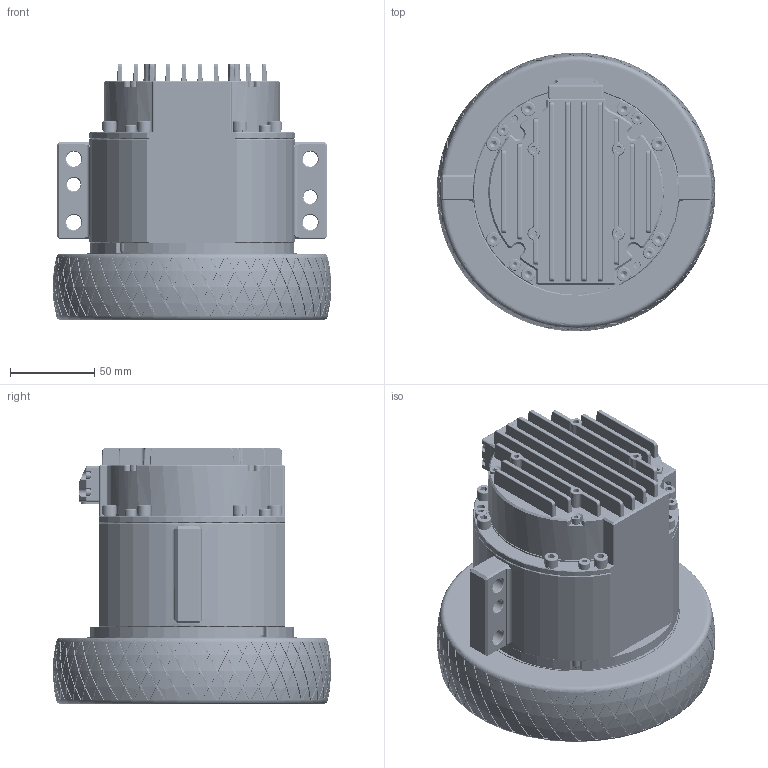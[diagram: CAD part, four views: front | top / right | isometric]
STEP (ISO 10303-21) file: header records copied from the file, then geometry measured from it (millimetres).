
FILE_DESCRIPTION (( 'STEP AP203' ), '1' );
FILE_NAME ('9.7976SS£¨iWMC10409-02222-A165-MBDT- V1.0.STEP', '2022-12-08T01:47:06', ( '' ), ( '' ), 'SwSTEP 2.0', 'SolidWorks 2022', '' );
FILE_SCHEMA (( 'CONFIG_CONTROL_DESIGN' ));
Length unit declared in the file: millimetre
Products named in the file (1): 9.7976SS（iWMC10409-02222-A165-MBDT- V1.0
Bounding box: 164.98 x 165 x 152 mm (x, y, z)
Volume: 1170212.2 mm3; surface area: 404378.8 mm2
Topology: 65 solids, 65 shells, 5850 faces, 14402 edges, 8775 vertices
Faces by surface type: plane 2063, cone 1325, cylinder 1091, bspline 912, torus 325, sphere 134
Full cylindrical faces by diameter (mm): 2 x2, 2.5 x118, 2.7 x8, 3 x5, 3.3 x14, 3.5 x2, 4 x420, 4.2 x8, 4.5 x16, 5 x24, 5.4 x8, 5.5 x25, 7 x20, 7.6 x1, 8 x27, 8.5 x8, 9 x4, 10.512 x6, 15 x2, 17 x1, 19.6 x1, 20 x2, 20.196 x1, 20.667 x2, 24 x1, 25 x1, 26 x1, 26.333 x2, 30.118 x2, 32 x2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
Entity records: 192483 total; most frequent: CARTESIAN_POINT 74387, ORIENTED_EDGE 24278, DIRECTION 20638, EDGE_CURVE 12139, AXIS2_PLACEMENT_3D 8705, VERTEX_POINT 8555, EDGE_LOOP 8322, FACE_OUTER_BOUND 6641
